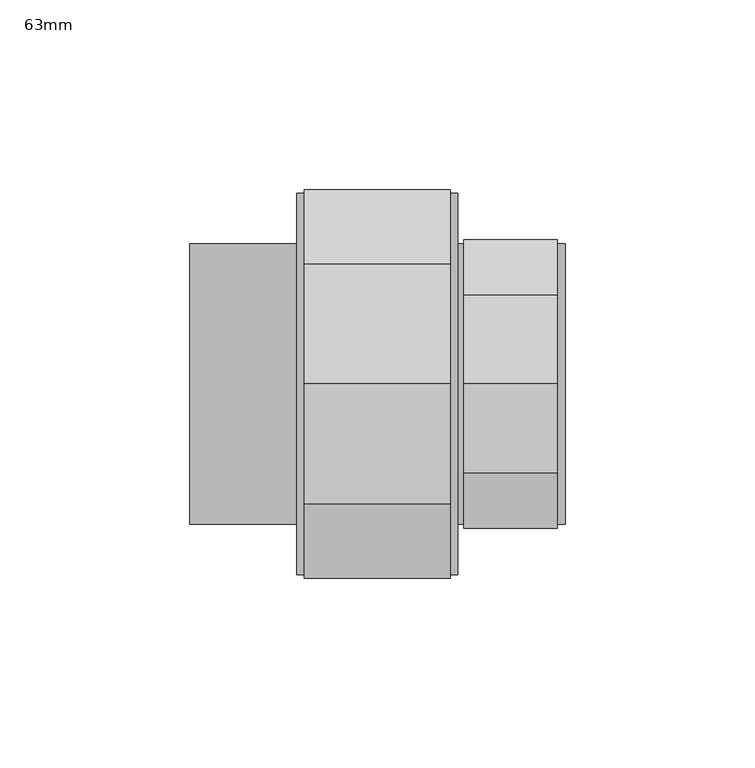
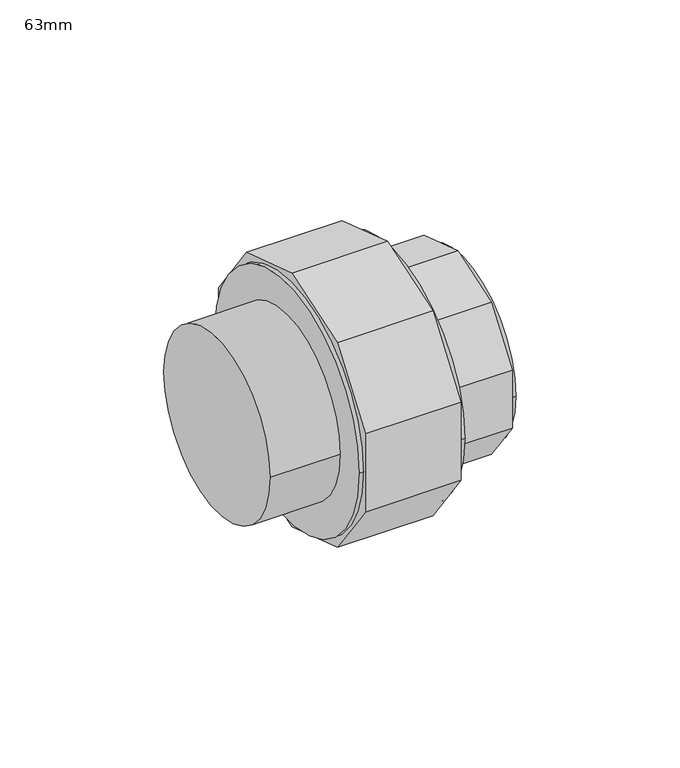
"""IFC4 building model written with IfcOpenShell, lengths in millimetres: pipe fitting geometry, PipeFitting_HTA_CPVC_3PieceUnions_CPVC : 63mm."""

from ifc_helpers import new_model, si_unit, point, frame, origin, origin_2d, place, context, project, spatial, polyline, circle_curve, trimmed, segment, composite_curve, outline, extrude, source, transform, mapped, element, save


def pipe_fitting_63mm_3e72b1f9(model_context):
    return source(origin(), model_context, "Body", "SweptSolid", [
        extrude(outline(polyline([(23.4852916, 32.3247307), (38.0, 12.3469485), (38.0, -12.3469485), (23.4852916, -32.3247307), (0.0, -39.9555645), (-23.4852916, -32.3247307), (-38.0, -12.3469485), (-38.0, 12.3469485), (-23.4852916, 32.3247307), (0.0, 39.9555645), (23.4852916, 32.3247307)])), frame((22.75, 0.0, 0.0), z_axis=(1.0, 0.0, 0.0), x_axis=(0.0, 1.0, 0.0)), (0.0, 0.0, 1.0), 24.75),
        extrude(outline(composite_curve([segment(trimmed(circle_curve(origin_2d(), 37.0), [point((-37.0, 0.0))], [point((37.0, 0.0))], False, "CARTESIAN"), True, "CONTINUOUS"), segment(trimmed(circle_curve(origin_2d(), 37.0), [point((37.0, 0.0))], [point((-37.0, 0.0))], False, "CARTESIAN"), True, "CONTINUOUS")], self_intersect=False)), frame((11.0, 0.0, 0.0), z_axis=(1.0, 0.0, 0.0), x_axis=(0.0, 1.0, 0.0)), (0.0, 0.0, 1.0), 38.5),
        extrude(outline(composite_curve([segment(trimmed(circle_curve(origin_2d(), 37.0), [point((-37.0, 0.0))], [point((37.0, 0.0))], False, "CARTESIAN"), True, "CONTINUOUS"), segment(trimmed(circle_curve(origin_2d(), 37.0), [point((37.0, 0.0))], [point((-37.0, 0.0))], False, "CARTESIAN"), True, "CONTINUOUS")], self_intersect=False)), frame((-49.5, 0.0, 0.0), z_axis=(1.0, 0.0, 0.0), x_axis=(0.0, 1.0, 0.0)), (0.0, 0.0, 1.0), 28.25),
        extrude(outline(polyline([(31.6742419, 43.5958539), (51.25, 16.6521344), (51.25, -16.6521344), (31.6742419, -43.5958539), (0.0, -53.887439), (-31.6742419, -43.5958539), (-51.25, -16.6521344), (-51.25, 16.6521344), (-31.6742419, 43.5958539), (0.0, 53.887439), (31.6742419, 43.5958539)])), frame((-19.25, 0.0, 0.0), z_axis=(1.0, 0.0, 0.0), x_axis=(0.0, 1.0, 0.0)), (0.0, 0.0, 1.0), 38.5),
        extrude(outline(composite_curve([segment(trimmed(circle_curve(origin_2d(), 50.25), [point((-50.25, 0.0))], [point((50.25, 0.0))], False, "CARTESIAN"), True, "CONTINUOUS"), segment(trimmed(circle_curve(origin_2d(), 50.25), [point((50.25, 0.0))], [point((-50.25, 0.0))], False, "CARTESIAN"), True, "CONTINUOUS")], self_intersect=False)), frame((-21.25, 0.0, 0.0), z_axis=(1.0, 0.0, 0.0), x_axis=(0.0, 1.0, 0.0)), (0.0, 0.0, 1.0), 42.5),
    ])


if __name__ == "__main__":
    model = new_model("IFC4")
    model_context = context("Model", 3, world=origin())
    ifc_project = project(units=[si_unit("LENGTHUNIT", "METRE", prefix="MILLI")], contexts=[model_context])
    site = spatial("IfcSite", under=ifc_project)
    building = spatial("IfcBuilding", under=site)
    placement = place(None, origin())
    pipe_fitting_63mm_shape = pipe_fitting_63mm_3e72b1f9(model_context)
    element("IfcPipeFitting", 1, ObjectType="PipeFitting_HTA_CPVC_3PieceUnions_CPVC : 63mm", at=placement, inside=building, context=model_context, shape_type="MappedRepresentation", body=[
        mapped(pipe_fitting_63mm_shape, transform((0.0, 0.0, 0.0), x_axis=(1.0, 0.0, 0.0), y_axis=(0.0, 1.0, 0.0), z_axis=(0.0, 0.0, 1.0))),
    ])
    save(model, "model.ifc")
